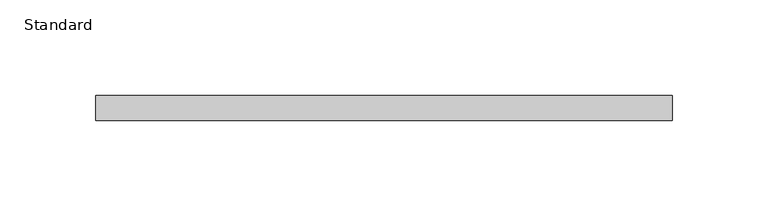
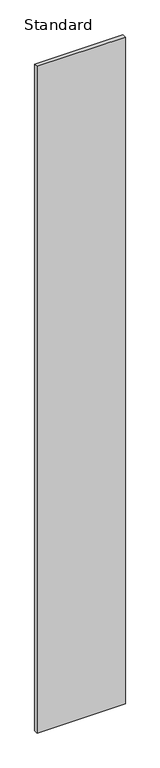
"""IFC4 building model written with IfcOpenShell, lengths in millimetres: furniture geometry, X_Partition-Compact Laminate-Duracube-Rectangular : Standard."""

import ifcopenshell
import ifcopenshell.guid

model = None  # the IFC model being written
_history = None  # IfcOwnerHistory: only IFC2X3 demands one
_inside = {}  # id of a spatial element -> (the spatial element, [elements in it])
_under = {}  # id of a project, library or spatial element -> (it, [spatial elements below it])
_declared = {}  # id of a project -> (the project, [libraries it declares])
_typed = {}  # id of a type object -> (the type object, [elements of that type])
_made_of = {}  # id of a material, layer set ... -> (it, [elements and type objects made of it])


def new_model(schema):
    """Start an empty IFC model of exactly this schema.

    Asked for "IFC4X3", IfcOpenShell would pick the latest addendum, in which some entities
    have other attributes; the version numbers below select the first issue.
    IFC2X3 requires an IfcOwnerHistory on every rooted entity: one is made here for all.
    """
    global model, _history
    if schema == "IFC4X3":
        model = ifcopenshell.file(schema_version=(4, 3, 0, 0))
    else:
        model = ifcopenshell.file(schema=schema)
    _inside.clear()
    _under.clear()
    _declared.clear()
    _typed.clear()
    _made_of.clear()
    _history = None
    if model.schema == "IFC2X3":
        org = make("IfcOrganization", Name="unknown")
        user = make(
            "IfcPersonAndOrganization",
            ThePerson=make("IfcPerson", FamilyName="unknown"),
            TheOrganization=org,
        )
        app = make(
            "IfcApplication",
            ApplicationDeveloper=org,
            Version="unknown",
            ApplicationFullName="unknown",
            ApplicationIdentifier="unknown",
        )
        _history = make(
            "IfcOwnerHistory",
            OwningUser=user,
            OwningApplication=app,
            ChangeAction="ADDED",
            CreationDate=0,
        )
    return model


def make(cls, **values):
    """One entity of the class cls with the attributes given. An attribute that is None is left unset."""
    return model.create_entity(
        cls, **{name: value for name, value in values.items() if value is not None}
    )


def rooted(cls, **values):
    """An entity with a GlobalId (a new one), such as an element, a storey or a relation."""
    return make(cls, GlobalId=ifcopenshell.guid.new(), OwnerHistory=_history, **values)


def si_unit(unit_type, name, prefix=None):
    """IfcSIUnit, for example si_unit("LENGTHUNIT", "METRE", prefix="MILLI")."""
    return make("IfcSIUnit", UnitType=unit_type, Prefix=prefix, Name=name)


def assignment(units):
    """IfcUnitAssignment: the units of a project."""
    return None if units is None else make("IfcUnitAssignment", Units=units)


def point(xyz):
    """IfcCartesianPoint."""
    return None if xyz is None else make("IfcCartesianPoint", Coordinates=xyz)


def direction(xyz):
    """IfcDirection."""
    return None if xyz is None else make("IfcDirection", DirectionRatios=xyz)


def frame(location, z_axis=None, x_axis=None):
    """IfcAxis2Placement3D, a coordinate frame: its origin and axes. An axis left out is left unset."""
    return make(
        "IfcAxis2Placement3D",
        Location=point(location),
        Axis=direction(z_axis),
        RefDirection=direction(x_axis),
    )


def origin():
    """The frame at (0, 0, 0) with its axes left unset."""
    return frame((0.0, 0.0, 0.0))


def origin_with_axes():
    """The frame at (0, 0, 0) with the z axis (0, 0, 1) and the x axis (1, 0, 0) written out."""
    return frame((0.0, 0.0, 0.0), z_axis=(0.0, 0.0, 1.0), x_axis=(1.0, 0.0, 0.0))


def place(relative_to, where):
    """IfcLocalPlacement: puts the frame where relative to a parent placement (None: the world)."""
    return make(
        "IfcLocalPlacement", PlacementRelTo=relative_to, RelativePlacement=where
    )


def context(
    kind, dimensions, precision=None, world=None, true_north=None, identifier=None
):
    """IfcGeometricRepresentationContext, for example the 3D "Model" context."""
    return make(
        "IfcGeometricRepresentationContext",
        ContextIdentifier=identifier,
        ContextType=kind,
        CoordinateSpaceDimension=dimensions,
        Precision=precision,
        WorldCoordinateSystem=world,
        TrueNorth=true_north,
    )


def project(units=None, contexts=None):
    """IfcProject with its units and contexts."""
    return rooted(
        "IfcProject",
        Name="project",
        RepresentationContexts=contexts,
        UnitsInContext=assignment(units),
    )


def spatial(cls, under=None, at=None, **own):
    """A site, building, storey or space (cls), placed at a placement, below another one or the project."""
    s = rooted(cls, ObjectPlacement=at, **own)
    if under is not None:
        _under.setdefault(under.id(), (under, []))[1].append(s)
    return s


def polyline(points):
    """IfcPolyline through the points."""
    return make("IfcPolyline", Points=[point(p) for p in points])


def outline(outer, holes=None, kind="AREA"):
    """IfcArbitraryClosedProfileDef: a profile drawn as a closed curve; with holes, ...WithVoids."""
    if holes is None:
        return make("IfcArbitraryClosedProfileDef", ProfileType=kind, OuterCurve=outer)
    return make(
        "IfcArbitraryProfileDefWithVoids",
        ProfileType=kind,
        OuterCurve=outer,
        InnerCurves=holes,
    )


def extrude(swept, where, along, depth):
    """IfcExtrudedAreaSolid: the profile swept, set in the frame where, extruded along a direction by depth."""
    return make(
        "IfcExtrudedAreaSolid",
        SweptArea=swept,
        Position=where,
        ExtrudedDirection=direction(along),
        Depth=depth,
    )


def shape(context_of_items, identifier, shape_type, items):
    """IfcShapeRepresentation: the items that make up one representation, for example the "Body"."""
    return make(
        "IfcShapeRepresentation",
        ContextOfItems=context_of_items,
        RepresentationIdentifier=identifier,
        RepresentationType=shape_type,
        Items=items,
    )


def source(mapping_origin, context_of_items, identifier, shape_type, items):
    """IfcRepresentationMap: a shape defined once, which mapped items show again and again."""
    return make(
        "IfcRepresentationMap",
        MappingOrigin=mapping_origin,
        MappedRepresentation=shape(context_of_items, identifier, shape_type, items),
    )


def transform(
    local_origin,
    x_axis=None,
    y_axis=None,
    z_axis=None,
    scale=None,
    scale2=None,
    scale3=None,
    uniform=True,
):
    """IfcCartesianTransformationOperator3D, or its non-uniform kind. x_axis, y_axis, z_axis: its Axis1, 2, 3."""
    if uniform:
        return make(
            "IfcCartesianTransformationOperator3D",
            Axis1=direction(x_axis),
            Axis2=direction(y_axis),
            LocalOrigin=point(local_origin),
            Scale=scale,
            Axis3=direction(z_axis),
        )
    return make(
        "IfcCartesianTransformationOperator3DnonUniform",
        Axis1=direction(x_axis),
        Axis2=direction(y_axis),
        LocalOrigin=point(local_origin),
        Scale=scale,
        Axis3=direction(z_axis),
        Scale2=scale2,
        Scale3=scale3,
    )


def mapped(mapping_source, mapping_target):
    """IfcMappedItem: shows the shape of a source again, moved by a transform."""
    return make(
        "IfcMappedItem", MappingSource=mapping_source, MappingTarget=mapping_target
    )


def made_of(thing, what):
    """Note that an element or type object is made of a material, layer set ...; save() writes the relation."""
    if what is not None:
        _made_of.setdefault(what.id(), (what, []))[1].append(thing)
    return thing


def element(
    cls,
    number,
    at=None,
    inside=None,
    cuts=None,
    type_object=None,
    material=None,
    context=None,
    identifier="Body",
    shape_type=None,
    held_by="IfcProductDefinitionShape",
    body=None,
    shapes=None,
    **own,
):
    """One element of the class cls, such as IfcWall. Its Tag is "e" and its number.

    at: its placement. inside: the storey or other place that contains it. cuts: it is an
    opening in that element (IfcRelVoidsElement). A single representation is given by context,
    identifier, shape_type and body (its items); several are given by shapes. held_by: the class
    of the entity that holds the representations. save() writes the other relations.
    """
    e = rooted(cls, Tag="e%d" % number, ObjectPlacement=at, **own)
    if body is not None:
        shapes = [shape(context, identifier, shape_type, body)]
    if shapes is not None:
        e.Representation = make(held_by, Representations=shapes)
    if inside is not None:
        _inside.setdefault(inside.id(), (inside, []))[1].append(e)
    if cuts is not None:
        rooted(
            "IfcRelVoidsElement", RelatingBuildingElement=cuts, RelatedOpeningElement=e
        )
    if type_object is not None:
        _typed.setdefault(type_object.id(), (type_object, []))[1].append(e)
    return made_of(e, material)


def aggregate(whole, parts):
    """IfcRelAggregates: a whole, such as a stair, and the parts it consists of."""
    return rooted("IfcRelAggregates", RelatingObject=whole, RelatedObjects=parts)


def save(model, path):
    """Write the relations noted so far, then the file.

    IfcRelAggregates (storeys below a building ...), IfcRelContainedInSpatialStructure (elements
    in a storey), IfcRelDefinesByType, IfcRelAssociatesMaterial and IfcRelDeclares: one each for
    every whole, place, type object, material and project.
    """
    for whole, parts in _under.values():
        aggregate(whole, parts)
    for where, things in _inside.values():
        rooted(
            "IfcRelContainedInSpatialStructure",
            RelatedElements=things,
            RelatingStructure=where,
        )
    for kind, things in _typed.values():
        rooted("IfcRelDefinesByType", RelatedObjects=things, RelatingType=kind)
    for what, things in _made_of.values():
        rooted("IfcRelAssociatesMaterial", RelatedObjects=things, RelatingMaterial=what)
    for by, libraries in _declared.values():
        rooted("IfcRelDeclares", RelatingContext=by, RelatedDefinitions=libraries)
    model.write(path)


def standard_50133f41(model_context):
    return source(origin(), model_context, "Body", "SweptSolid", [
        extrude(outline(polyline([(195.2003264, 0.0), (195.2003264, -13.0), (-105.7996736, -13.0), (-105.7996736, 0.0), (195.2003264, 0.0)])), origin_with_axes(), (0.0, 0.0, 1.0), 2398.0),
    ])


if __name__ == "__main__":
    model = new_model("IFC4")
    model_context = context("Model", 3, world=origin())
    ifc_project = project(units=[si_unit("LENGTHUNIT", "METRE", prefix="MILLI")], contexts=[model_context])
    site = spatial("IfcSite", under=ifc_project)
    building = spatial("IfcBuilding", under=site)
    placement = place(None, origin())
    standard_shape = standard_50133f41(model_context)
    element("IfcFurniture", 1, ObjectType="X_Partition-Compact Laminate-Duracube-Rectangular : Standard", at=placement, inside=building, context=model_context, shape_type="MappedRepresentation", body=[
        mapped(standard_shape, transform((0.0, 0.0, 0.0), x_axis=(1.0, 0.0, 0.0), y_axis=(0.0, 1.0, 0.0), z_axis=(0.0, 0.0, 1.0))),
    ])
    save(model, "model.ifc")
